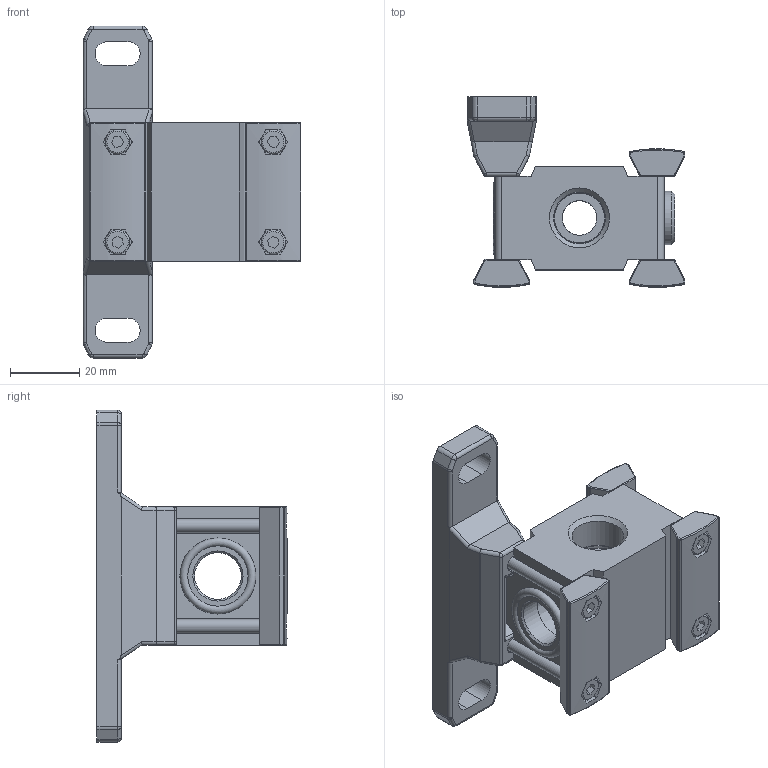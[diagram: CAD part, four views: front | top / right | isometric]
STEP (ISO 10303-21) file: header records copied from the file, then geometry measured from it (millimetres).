
FILE_DESCRIPTION( ( 'Unknown' ), '1' );
FILE_NAME( 'D:/STEP/T15-MACP300-2.stp', 'Unknown', ( 'Unknown' ), ( 'Unknown' ), 'PSStep 15.0.49', 'Unknown', ' ' );
FILE_SCHEMA( ( 'AUTOMOTIVE_DESIGN { 1 0 10303 214 1 1 1 1 }' ) );
Length unit declared in the file: millimetre
Products named in the file (2): 1; B01128
Bounding box: 63 x 55 x 96 mm (x, y, z)
Volume: 59867.3 mm3; surface area: 32695 mm2
Topology: 2 solids, 2 shells, 711 faces, 1786 edges, 1065 vertices
Faces by surface type: plane 324, cylinder 252, cone 42, sphere 40, torus 33, bspline 16, extrusion 4
Full cylindrical faces by diameter (mm): 3.5 x2, 4 x6, 4.5 x6, 5 x2, 7 x4, 10 x2, 13.5 x2, 14.8 x1, 14.95 x2, 15.5 x2
Entity records: 27225 total; most frequent: CARTESIAN_POINT 4978, DIRECTION 3522, ORIENTED_EDGE 3344, EDGE_CURVE 1672, AXIS2_PLACEMENT_3D 1304, VERTEX_POINT 1052, VECTOR 914, LINE 910
